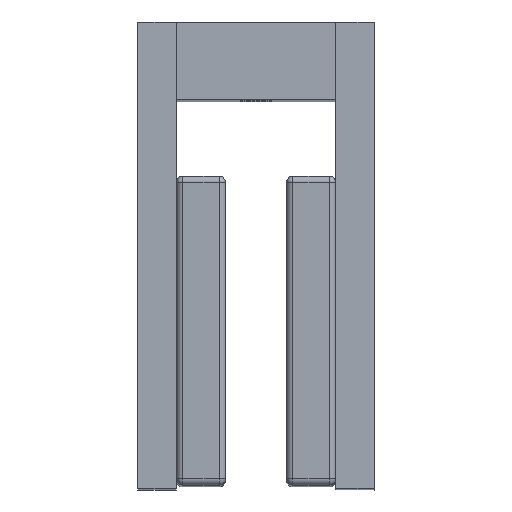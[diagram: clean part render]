
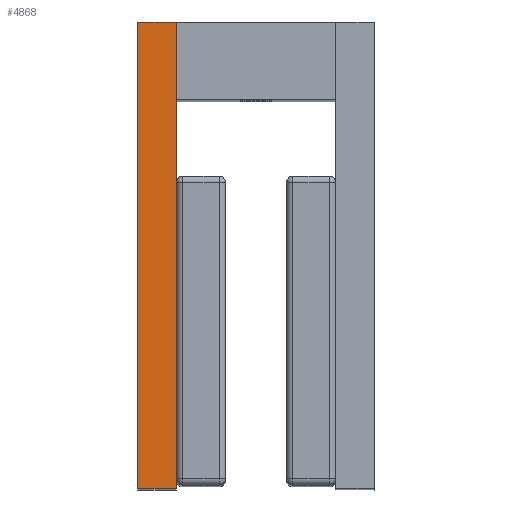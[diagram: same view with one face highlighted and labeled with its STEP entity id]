
A CAD part, top view. The second image highlights one B-rep face of the part: STEP entity #4868.
In plain terms, the highlighted planar face has unit normal (0, 0, 1) as drawn and (-1, 0, 0) by its records, which use the part's own axes.
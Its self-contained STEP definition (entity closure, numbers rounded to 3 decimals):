
#317 = PLANE ( 'NONE',  #13794 ) ;
#475 = LINE ( 'NONE', #10107, #4022 ) ;
#567 = DIRECTION ( 'NONE',  ( 0., -1., 0. ) ) ;
#733 = ORIENTED_EDGE ( 'NONE', *, *, #9021, .T. ) ;
#1850 = DIRECTION ( 'NONE',  ( 0., 0., -1. ) ) ;
#2039 = VERTEX_POINT ( 'NONE', #5066 ) ;
#2649 = EDGE_CURVE ( 'NONE', #14816, #5927, #8150, .T. ) ;
#3121 = DIRECTION ( 'NONE',  ( 0., 0., -1. ) ) ;
#4022 = VECTOR ( 'NONE', #4040, 1000. ) ;
#4040 = DIRECTION ( 'NONE',  ( 0., 0., -1. ) ) ;
#4089 = VECTOR ( 'NONE', #3121, 1000. ) ;
#4585 = DIRECTION ( 'NONE',  ( 0., -1., 0. ) ) ;
#4868 = ADVANCED_FACE ( 'NONE', ( #10447 ), #317, .F. ) ;
#5066 = CARTESIAN_POINT ( 'NONE',  ( 0., 0., 0. ) ) ;
#5305 = ORIENTED_EDGE ( 'NONE', *, *, #12856, .F. ) ;
#5798 = CARTESIAN_POINT ( 'NONE',  ( 0., 76.2, 6.35 ) ) ;
#5927 = VERTEX_POINT ( 'NONE', #9758 ) ;
#6114 = VECTOR ( 'NONE', #567, 1000. ) ;
#6884 = EDGE_CURVE ( 'NONE', #10109, #2039, #475, .T. ) ;
#8074 = CARTESIAN_POINT ( 'NONE',  ( 0., 0., 0. ) ) ;
#8150 = LINE ( 'NONE', #15332, #4089 ) ;
#9021 = EDGE_CURVE ( 'NONE', #5927, #2039, #10141, .T. ) ;
#9422 = CARTESIAN_POINT ( 'NONE',  ( 0., 0., 6.35 ) ) ;
#9758 = CARTESIAN_POINT ( 'NONE',  ( 0., 76.2, 0. ) ) ;
#10107 = CARTESIAN_POINT ( 'NONE',  ( 0., 0., 6.35 ) ) ;
#10109 = VERTEX_POINT ( 'NONE', #13973 ) ;
#10141 = LINE ( 'NONE', #8074, #6114 ) ;
#10447 = FACE_OUTER_BOUND ( 'NONE', #13242, .T. ) ;
#10933 = DIRECTION ( 'NONE',  ( 1., 0., 0. ) ) ;
#12856 = EDGE_CURVE ( 'NONE', #14816, #10109, #13398, .T. ) ;
#13242 = EDGE_LOOP ( 'NONE', ( #733, #17242, #5305, #14819 ) ) ;
#13398 = LINE ( 'NONE', #15255, #17448 ) ;
#13794 = AXIS2_PLACEMENT_3D ( 'NONE', #9422, #10933, #1850 ) ;
#13973 = CARTESIAN_POINT ( 'NONE',  ( 0., 0., 6.35 ) ) ;
#14816 = VERTEX_POINT ( 'NONE', #5798 ) ;
#14819 = ORIENTED_EDGE ( 'NONE', *, *, #2649, .T. ) ;
#15255 = CARTESIAN_POINT ( 'NONE',  ( 0., 0., 6.35 ) ) ;
#15332 = CARTESIAN_POINT ( 'NONE',  ( 0., 76.2, 6.35 ) ) ;
#17242 = ORIENTED_EDGE ( 'NONE', *, *, #6884, .F. ) ;
#17448 = VECTOR ( 'NONE', #4585, 1000. ) ;
